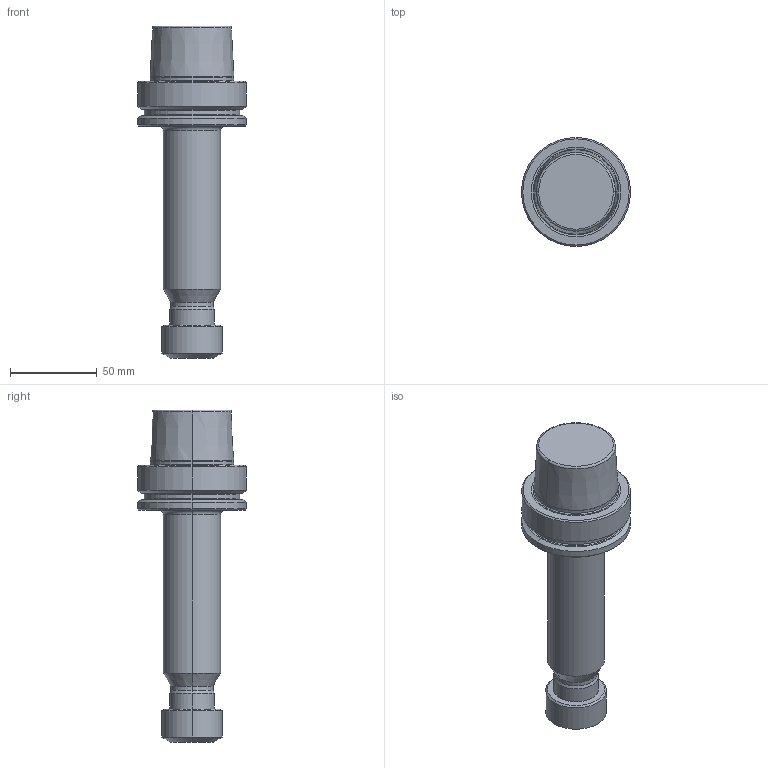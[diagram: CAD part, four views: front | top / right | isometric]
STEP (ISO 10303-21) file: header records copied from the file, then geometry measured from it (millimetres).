
FILE_DESCRIPTION (( 'STEP AP203' ), '1' );
FILE_NAME ('HSK-A 63 ER 20 160 6.3G 20000 SL.STEP', '2019-05-11T04:33:48', ( '' ), ( '' ), 'SwSTEP 2.0', 'SolidWorks 2014', '' );
FILE_SCHEMA (( 'CONFIG_CONTROL_DESIGN' ));
Length unit declared in the file: millimetre
Products named in the file (1): HSK-A 63 ER 20 160 6.3G 20000 SL
Bounding box: 63 x 63 x 191.9 mm (x, y, z)
Volume: 242770.8 mm3; surface area: 30344.4 mm2
Topology: 1 solids, 1 shells, 55 faces, 108 edges, 60 vertices
Faces by surface type: cone 22, cylinder 16, torus 10, plane 7
Entity records: 1481 total; most frequent: DIRECTION 290, CARTESIAN_POINT 224, ORIENTED_EDGE 216, AXIS2_PLACEMENT_3D 126, EDGE_CURVE 108, CIRCLE 70, VERTEX_POINT 60, EDGE_LOOP 60
